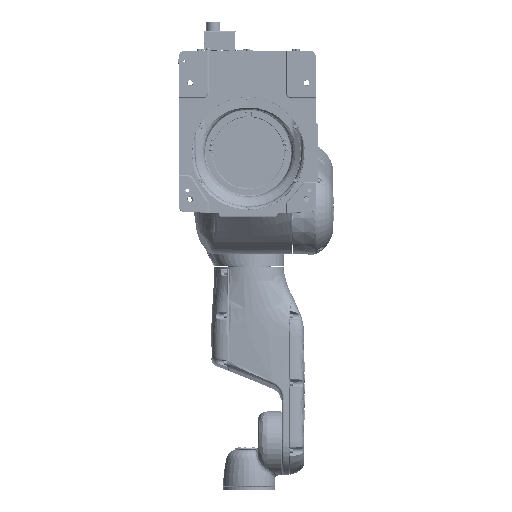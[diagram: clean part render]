
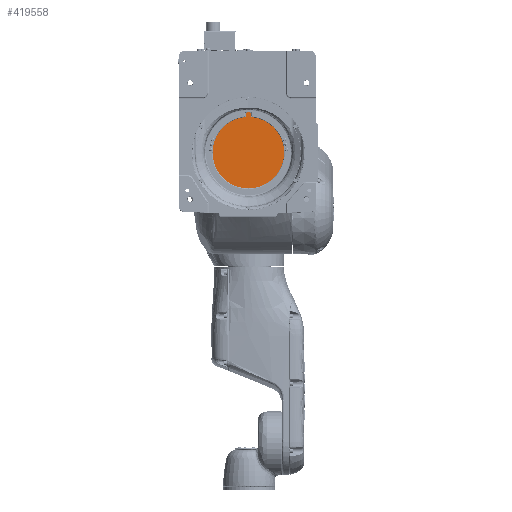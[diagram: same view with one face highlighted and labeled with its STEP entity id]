
A CAD part, front view. The second image highlights one B-rep face of the part: STEP entity #419558.
In plain terms, the highlighted planar face has unit normal (0, -1, 0).
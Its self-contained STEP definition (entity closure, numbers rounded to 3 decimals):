
#10369 = CARTESIAN_POINT ( 'NONE',  ( -148.978, -149., -74.457 ) ) ;
#67069 = DIRECTION ( 'NONE',  ( 0., 0., 1. ) ) ;
#77534 = CARTESIAN_POINT ( 'NONE',  ( -0.022, -149., -74.5 ) ) ;
#78830 = AXIS2_PLACEMENT_3D ( 'NONE', #179945, #592736, #67069 ) ;
#100899 =( BOUNDED_CURVE ( )  B_SPLINE_CURVE ( 3, ( #447264, #501344, #399806, #550954 ),
 .UNSPECIFIED., .F., .F. ) 
 B_SPLINE_CURVE_WITH_KNOTS ( ( 4, 4 ),
 ( 0., 0. ),
 .UNSPECIFIED. ) 
 CURVE ( )  GEOMETRIC_REPRESENTATION_ITEM ( )  RATIONAL_B_SPLINE_CURVE ( ( 1., 1., 1., 1. ) ) 
 REPRESENTATION_ITEM ( '' )  );
#101712 = EDGE_CURVE ( 'NONE', #623765, #261863, #100899, .T. ) ;
#106904 = CARTESIAN_POINT ( 'NONE',  ( 148.957, -149., -74.5 ) ) ;
#120817 = EDGE_CURVE ( 'NONE', #261863, #373500, #467182, .T. ) ;
#164724 = ORIENTED_EDGE ( 'NONE', *, *, #616895, .F. ) ;
#179945 = CARTESIAN_POINT ( 'NONE',  ( 0., -149., 0. ) ) ;
#188560 = CARTESIAN_POINT ( 'NONE',  ( -0.022, -149., -74.5 ) ) ;
#198118 = CARTESIAN_POINT ( 'NONE',  ( 0., -149., 74.5 ) ) ;
#209982 =( BOUNDED_CURVE ( )  B_SPLINE_CURVE ( 3, ( #268010, #10369, #581326, #218257 ),
 .UNSPECIFIED., .F., .F. ) 
 B_SPLINE_CURVE_WITH_KNOTS ( ( 4, 4 ),
 ( 0., 1. ),
 .UNSPECIFIED. ) 
 CURVE ( )  GEOMETRIC_REPRESENTATION_ITEM ( )  RATIONAL_B_SPLINE_CURVE ( ( 1., 0.333, 0.333, 1. ) ) 
 REPRESENTATION_ITEM ( '' )  );
#211889 =( BOUNDED_CURVE ( )  B_SPLINE_CURVE ( 3, ( #592135, #594342, #386923, #77534 ),
 .UNSPECIFIED., .F., .F. ) 
 B_SPLINE_CURVE_WITH_KNOTS ( ( 4, 4 ),
 ( 0., 0. ),
 .UNSPECIFIED. ) 
 CURVE ( )  GEOMETRIC_REPRESENTATION_ITEM ( )  RATIONAL_B_SPLINE_CURVE ( ( 1., 1., 1., 1. ) ) 
 REPRESENTATION_ITEM ( '' )  );
#218257 = CARTESIAN_POINT ( 'NONE',  ( 0., -149., 74.5 ) ) ;
#228238 = EDGE_LOOP ( 'NONE', ( #164724, #552227, #390030, #427978 ) ) ;
#260639 = CARTESIAN_POINT ( 'NONE',  ( 0.022, -149., 74.5 ) ) ;
#261863 = VERTEX_POINT ( 'NONE', #331365 ) ;
#268010 = CARTESIAN_POINT ( 'NONE',  ( -0.022, -149., -74.5 ) ) ;
#287956 = CARTESIAN_POINT ( 'NONE',  ( 0., -149., -74.5 ) ) ;
#331365 = CARTESIAN_POINT ( 'NONE',  ( 0.022, -149., 74.5 ) ) ;
#373500 = VERTEX_POINT ( 'NONE', #287956 ) ;
#386923 = CARTESIAN_POINT ( 'NONE',  ( -0.014, -149., -74.5 ) ) ;
#390030 = ORIENTED_EDGE ( 'NONE', *, *, #101712, .F. ) ;
#399806 = CARTESIAN_POINT ( 'NONE',  ( 0.014, -149., 74.5 ) ) ;
#416283 = CARTESIAN_POINT ( 'NONE',  ( 148.978, -149., 74.457 ) ) ;
#419558 = ADVANCED_FACE ( 'NONE', ( #526838 ), #527726, .F. ) ;
#420765 = CARTESIAN_POINT ( 'NONE',  ( 0., -149., -74.5 ) ) ;
#427978 = ORIENTED_EDGE ( 'NONE', *, *, #531757, .F. ) ;
#447264 = CARTESIAN_POINT ( 'NONE',  ( 0., -149., 74.5 ) ) ;
#467182 =( BOUNDED_CURVE ( )  B_SPLINE_CURVE ( 3, ( #260639, #416283, #106904, #420765 ),
 .UNSPECIFIED., .F., .F. ) 
 B_SPLINE_CURVE_WITH_KNOTS ( ( 4, 4 ),
 ( 0., 1. ),
 .UNSPECIFIED. ) 
 CURVE ( )  GEOMETRIC_REPRESENTATION_ITEM ( )  RATIONAL_B_SPLINE_CURVE ( ( 1., 0.333, 0.333, 1. ) ) 
 REPRESENTATION_ITEM ( '' )  );
#501344 = CARTESIAN_POINT ( 'NONE',  ( 0.007, -149., 74.5 ) ) ;
#526838 = FACE_OUTER_BOUND ( 'NONE', #228238, .T. ) ;
#527726 = PLANE ( 'NONE',  #78830 ) ;
#531757 = EDGE_CURVE ( 'NONE', #659720, #623765, #209982, .T. ) ;
#550954 = CARTESIAN_POINT ( 'NONE',  ( 0.022, -149., 74.5 ) ) ;
#552227 = ORIENTED_EDGE ( 'NONE', *, *, #120817, .F. ) ;
#581326 = CARTESIAN_POINT ( 'NONE',  ( -148.957, -149., 74.5 ) ) ;
#592135 = CARTESIAN_POINT ( 'NONE',  ( 0., -149., -74.5 ) ) ;
#592736 = DIRECTION ( 'NONE',  ( 0., 1., 0. ) ) ;
#594342 = CARTESIAN_POINT ( 'NONE',  ( -0.007, -149., -74.5 ) ) ;
#616895 = EDGE_CURVE ( 'NONE', #373500, #659720, #211889, .T. ) ;
#623765 = VERTEX_POINT ( 'NONE', #198118 ) ;
#659720 = VERTEX_POINT ( 'NONE', #188560 ) ;
